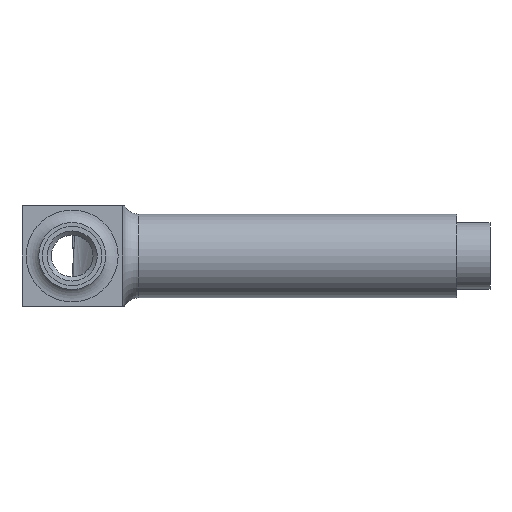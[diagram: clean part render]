
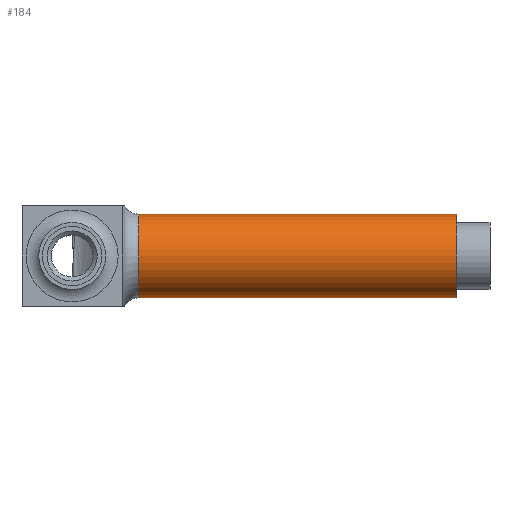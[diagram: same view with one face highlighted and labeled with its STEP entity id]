
A CAD part, front view. The second image highlights one B-rep face of the part: STEP entity #184.
In plain terms, the highlighted cylindrical face has radius 2.5 mm (diameter 5 mm), a full revolution.
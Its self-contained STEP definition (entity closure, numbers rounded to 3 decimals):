
#106=CYLINDRICAL_SURFACE('',#559,2.5);
#138=FACE_BOUND('',#252,.T.);
#139=FACE_BOUND('',#253,.T.);
#184=ADVANCED_FACE('',(#138,#139),#106,.T.);
#252=EDGE_LOOP('',(#373));
#253=EDGE_LOOP('',(#374));
#373=ORIENTED_EDGE('',*,*,#485,.T.);
#374=ORIENTED_EDGE('',*,*,#483,.F.);
#436=VERTEX_POINT('',#884);
#438=VERTEX_POINT('',#891);
#483=EDGE_CURVE('',#436,#436,#510,.T.);
#485=EDGE_CURVE('',#438,#438,#512,.T.);
#510=CIRCLE('',#553,2.5);
#512=CIRCLE('',#558,2.5);
#553=AXIS2_PLACEMENT_3D('',#883,#663,#664);
#558=AXIS2_PLACEMENT_3D('',#890,#673,#674);
#559=AXIS2_PLACEMENT_3D('',#892,#675,#676);
#663=DIRECTION('',(1.,0.,0.));
#664=DIRECTION('',(0.,-1.,0.));
#673=DIRECTION('',(1.,0.,0.));
#674=DIRECTION('',(0.,0.,-1.));
#675=DIRECTION('',(-1.,0.,0.));
#676=DIRECTION('',(0.,0.,-1.));
#883=CARTESIAN_POINT('',(23.,0.,0.));
#884=CARTESIAN_POINT('',(23.,-2.5,0.));
#890=CARTESIAN_POINT('',(4.,0.,0.));
#891=CARTESIAN_POINT('',(4.,0.,-2.5));
#892=CARTESIAN_POINT('',(25.,0.,0.));
